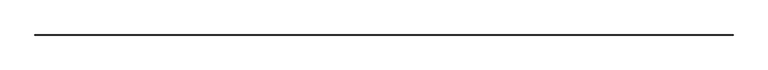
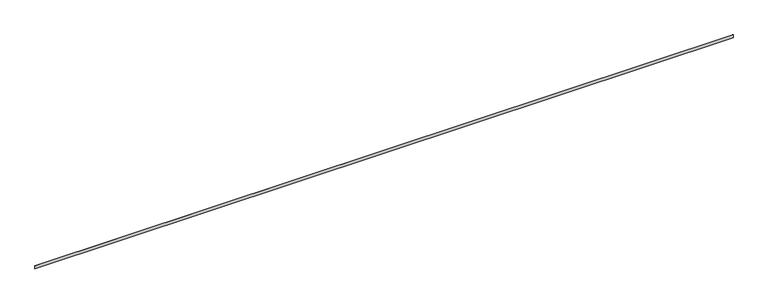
"""IFC4 building model written with IfcOpenShell, lengths in millimetres: proxy geometry, Electrical_Installation_Hager_Partition-Wall : Electrical_Installation_Hager_Partition-Wall."""

from ifc_helpers import new_model, si_unit, frame, origin, place, context, project, spatial, polyline, outline, extrude, source, transform, mapped, element, save


def electrical_fixtures_5da70066(model_context):
    return source(origin(), model_context, "Body", "SweptSolid", [
        extrude(outline(polyline([(13940.0, 71.0), (13940.0, 69.0), (0.0, 69.0), (0.0, 71.0), (13940.0, 71.0)])), frame((0.0, 0.0, -32.5053974), z_axis=(0.0, 0.0, 1.0), x_axis=(1.0, 0.0, 0.0)), (0.0, 0.0, 1.0), 63.0),
    ])


if __name__ == "__main__":
    model = new_model("IFC4")
    model_context = context("Model", 3, world=origin())
    ifc_project = project(units=[si_unit("LENGTHUNIT", "METRE", prefix="MILLI")], contexts=[model_context])
    site = spatial("IfcSite", under=ifc_project)
    building = spatial("IfcBuilding", under=site)
    placement = place(None, origin())
    electrical_fixtures_shape = electrical_fixtures_5da70066(model_context)
    element("IfcBuildingElementProxy", 1, Name="Electrical_Installation_Hager_Partition-Wall : Electrical_Installation_Hager_Partition-Wall", ObjectType="Electrical_Installation_Hager_Partition-Wall : Electrical_Installation_Hager_Partition-Wall", at=placement, inside=building, context=model_context, shape_type="MappedRepresentation", body=[
        mapped(electrical_fixtures_shape, transform((0.0, 0.0, 0.0), x_axis=(1.0, 0.0, 0.0), y_axis=(0.0, 1.0, 0.0), z_axis=(0.0, 0.0, 1.0))),
    ])
    save(model, "model.ifc")
